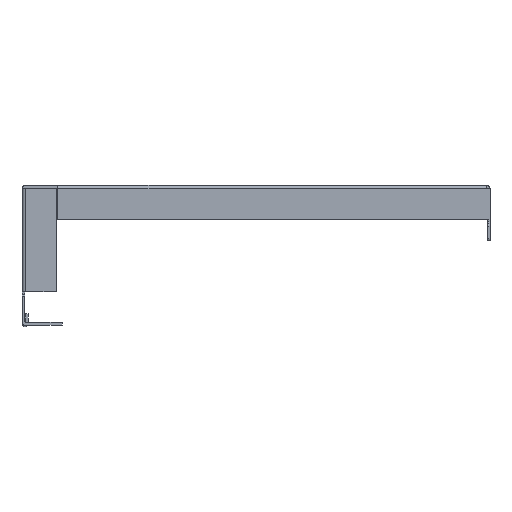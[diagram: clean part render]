
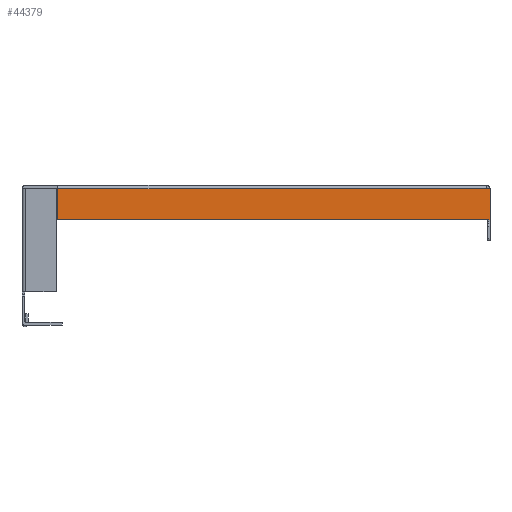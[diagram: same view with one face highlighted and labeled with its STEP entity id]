
A CAD part, top view. The second image highlights one B-rep face of the part: STEP entity #44379.
In plain terms, the highlighted planar face has unit normal (0, 0, 1).
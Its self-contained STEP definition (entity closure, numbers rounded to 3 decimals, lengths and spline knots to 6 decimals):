
#246=PLANE('',#46586);
#2450=ORIENTED_EDGE('',*,*,#15441,.T.);
#2451=ORIENTED_EDGE('',*,*,#15438,.T.);
#2452=ORIENTED_EDGE('',*,*,#15434,.F.);
#2453=ORIENTED_EDGE('',*,*,#15436,.F.);
#2454=ORIENTED_EDGE('',*,*,#15442,.T.);
#15434=EDGE_CURVE('',#21928,#21929,#26214,.T.);
#15436=EDGE_CURVE('',#21923,#21928,#26216,.T.);
#15438=EDGE_CURVE('',#21930,#21929,#26218,.T.);
#15441=EDGE_CURVE('',#21932,#21930,#26220,.T.);
#15442=EDGE_CURVE('',#21923,#21932,#26221,.T.);
#21923=VERTEX_POINT('',#59515);
#21928=VERTEX_POINT('',#59530);
#21929=VERTEX_POINT('',#59532);
#21930=VERTEX_POINT('',#59538);
#21932=VERTEX_POINT('',#59546);
#26214=LINE('',#59531,#32489);
#26216=LINE('',#59535,#32491);
#26218=LINE('',#59539,#32493);
#26220=LINE('',#59545,#32495);
#26221=LINE('',#59547,#32496);
#32489=VECTOR('',#48851,1.);
#32491=VECTOR('',#48855,1.);
#32493=VECTOR('',#48859,1.);
#32495=VECTOR('',#48867,1.);
#32496=VECTOR('',#48868,1.);
#38733=EDGE_LOOP('',(#2450,#2451,#2452,#2453,#2454));
#41522=FACE_BOUND('',#38733,.T.);
#44379=ADVANCED_FACE('',(#41522),#246,.T.);
#46586=AXIS2_PLACEMENT_3D('',#59544,#48865,#48866);
#48851=DIRECTION('',(0.,-1.,0.));
#48855=DIRECTION('',(1.,0.,0.));
#48859=DIRECTION('',(1.,0.,0.));
#48865=DIRECTION('',(0.,0.,1.));
#48866=DIRECTION('',(0.,-1.,0.));
#48867=DIRECTION('',(0.,-1.,0.));
#48868=DIRECTION('',(-1.,0.,0.));
#59515=CARTESIAN_POINT('',(0.281084,-0.059912,-0.088266));
#59530=CARTESIAN_POINT('',(0.281784,-0.059912,-0.088266));
#59531=CARTESIAN_POINT('',(0.281784,-0.059912,-0.088266));
#59532=CARTESIAN_POINT('',(0.281784,-0.066212,-0.088266));
#59535=CARTESIAN_POINT('',(0.281084,-0.059912,-0.088266));
#59538=CARTESIAN_POINT('',(0.193784,-0.066212,-0.088266));
#59539=CARTESIAN_POINT('',(0.281084,-0.066212,-0.088266));
#59544=CARTESIAN_POINT('',(0.234134,-0.062776,-0.088266));
#59545=CARTESIAN_POINT('',(0.193784,-0.059494,-0.088266));
#59546=CARTESIAN_POINT('',(0.193784,-0.059912,-0.088266));
#59547=CARTESIAN_POINT('',(0.234134,-0.059912,-0.088266));
